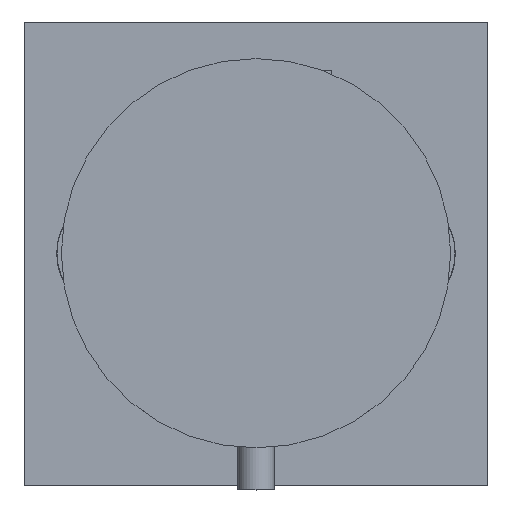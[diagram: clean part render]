
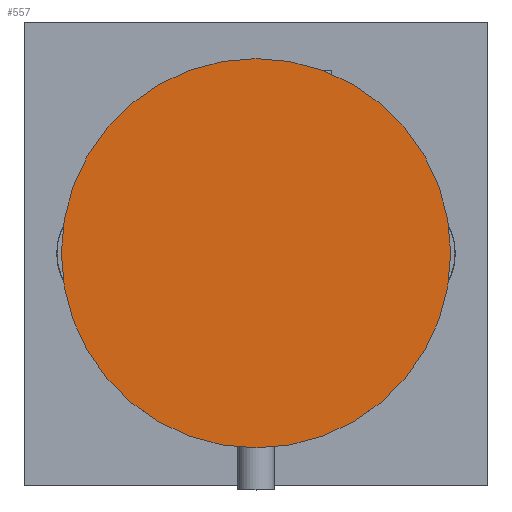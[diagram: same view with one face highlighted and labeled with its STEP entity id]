
A CAD part, top view. The second image highlights one B-rep face of the part: STEP entity #557.
In plain terms, the highlighted planar face has unit normal (0, 0, 1).
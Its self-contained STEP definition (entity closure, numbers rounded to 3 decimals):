
#473 = EDGE_CURVE('',#474,#474,#476,.T.);
#474 = VERTEX_POINT('',#475);
#475 = CARTESIAN_POINT('',(840.,0.,525.));
#476 = SURFACE_CURVE('',#477,(#482,#494),.PCURVE_S1.);
#477 = CIRCLE('',#478,840.);
#478 = AXIS2_PLACEMENT_3D('',#479,#480,#481);
#479 = CARTESIAN_POINT('',(0.,0.,525.));
#480 = DIRECTION('',(0.,0.,1.));
#481 = DIRECTION('',(1.,0.,-0.));
#482 = PCURVE('',#483,#488);
#483 = CYLINDRICAL_SURFACE('',#484,840.);
#484 = AXIS2_PLACEMENT_3D('',#485,#486,#487);
#485 = CARTESIAN_POINT('',(0.,0.,500.));
#486 = DIRECTION('',(0.,0.,1.));
#487 = DIRECTION('',(1.,0.,-0.));
#488 = DEFINITIONAL_REPRESENTATION('',(#489),#493);
#489 = LINE('',#490,#491);
#490 = CARTESIAN_POINT('',(0.,25.));
#491 = VECTOR('',#492,1.);
#492 = DIRECTION('',(1.,0.));
#493 = ( GEOMETRIC_REPRESENTATION_CONTEXT(2) 
PARAMETRIC_REPRESENTATION_CONTEXT() REPRESENTATION_CONTEXT('2D SPACE',''
  ) );
#494 = PCURVE('',#495,#500);
#495 = PLANE('',#496);
#496 = AXIS2_PLACEMENT_3D('',#497,#498,#499);
#497 = CARTESIAN_POINT('',(0.,0.,525.));
#498 = DIRECTION('',(0.,0.,1.));
#499 = DIRECTION('',(1.,0.,-0.));
#500 = DEFINITIONAL_REPRESENTATION('',(#501),#505);
#501 = CIRCLE('',#502,840.);
#502 = AXIS2_PLACEMENT_2D('',#503,#504);
#503 = CARTESIAN_POINT('',(0.,0.));
#504 = DIRECTION('',(1.,0.));
#505 = ( GEOMETRIC_REPRESENTATION_CONTEXT(2) 
PARAMETRIC_REPRESENTATION_CONTEXT() REPRESENTATION_CONTEXT('2D SPACE',''
  ) );
#557 = ADVANCED_FACE('',(#558),#495,.T.);
#558 = FACE_BOUND('',#559,.T.);
#559 = EDGE_LOOP('',(#560));
#560 = ORIENTED_EDGE('',*,*,#473,.T.);
